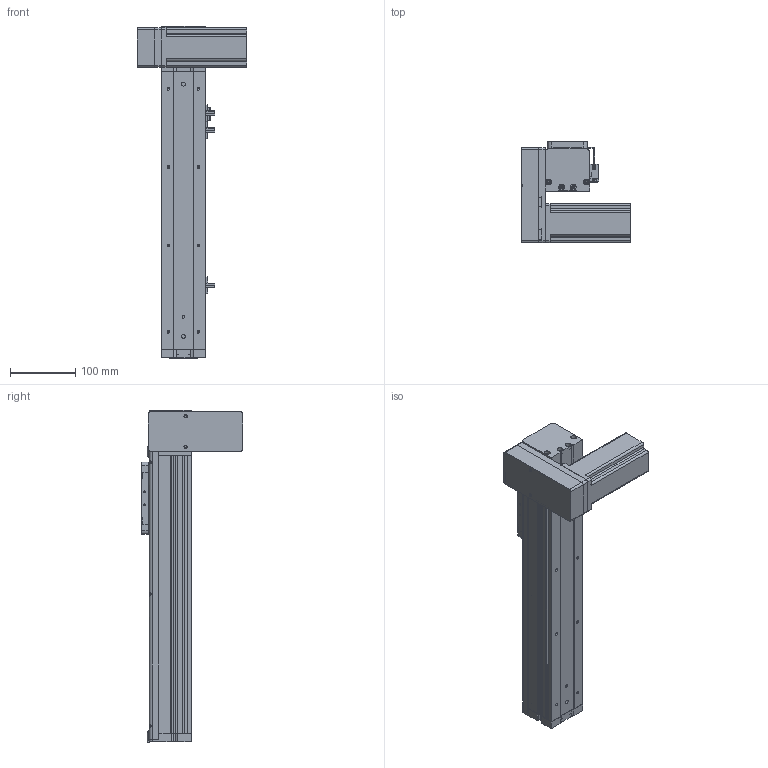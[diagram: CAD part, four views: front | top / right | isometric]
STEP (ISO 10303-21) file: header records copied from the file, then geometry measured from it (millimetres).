
FILE_DESCRIPTION (( 'STEP AP214' ), '1' );
FILE_NAME ('KSD68BS-S250-MRD-CR.STEP', '2019-11-08T02:28:10', ( '微软用户' ), ( '微软中国' ), 'SwSTEP 2.0', 'SolidWorks 2014', '' );
FILE_SCHEMA (( 'AUTOMOTIVE_DESIGN' ));
Length unit declared in the file: millimetre
Products named in the file (14): 68单导轨全封闭同步带安装板; 悵誘欶奻狟殏; 68宽马达安装板连板上折同步带; 感应片68宽全封闭; U倰嫖萇EEㄜSX672; 台达ECMA－C20604AS伺服电机（400W); KSD68BS 250行程底板全封闭; KSD68BS 250行程盖板全封闭; KSD68BS-S250-MRD-CR; 68宽单导轨全封闭丝杆传动安装板1防护罩; KSD68BS 250行程侧板全封闭; 68宽单导轨全封闭同步带端板; 68单导轨全封闭同步带电机座右; 68遵裔啣揤啣1
Assembly tree (17 placements, depth 2):
  KSD68BS-S250-MRD-CR
    KSD68BS 250行程底板全封闭
    台达ECMA－C20604AS伺服电机（400W)
    U倰嫖萇EEㄜSX672  x3
    感应片68宽全封闭
    68宽马达安装板连板上折同步带
    悵誘欶奻狟殏
    68单导轨全封闭同步带安装板
    68单导轨全封闭同步带电机座右
    68宽单导轨全封闭同步带端板
    KSD68BS 250行程侧板全封闭  x2
    68宽单导轨全封闭丝杆传动安装板1防护罩
    68遵裔啣揤啣1  x2
    KSD68BS 250行程盖板全封闭
Bounding box: 167.2 x 155.5 x 508.1 mm (x, y, z)
Volume: 1527981.2 mm3; surface area: 494448.5 mm2
Topology: 18 solids, 18 shells, 1346 faces, 3771 edges, 2427 vertices
Faces by surface type: plane 623, cylinder 595, cone 128
Entity records: 41060 total; most frequent: CARTESIAN_POINT 6853, DIRECTION 6243, ORIENTED_EDGE 5986, EDGE_CURVE 2993, AXIS2_PLACEMENT_3D 2207, VERTEX_POINT 1965, LINE 1829, VECTOR 1829
